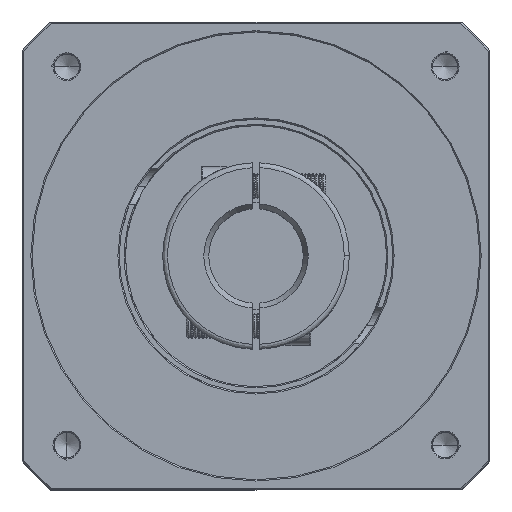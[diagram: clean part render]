
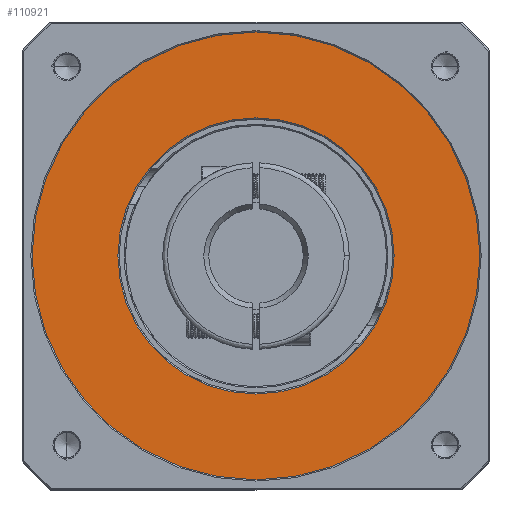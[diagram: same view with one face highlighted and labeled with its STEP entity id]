
A CAD part, top view. The second image highlights one B-rep face of the part: STEP entity #110921.
In plain terms, the highlighted planar face has unit normal (0, 0, 1).
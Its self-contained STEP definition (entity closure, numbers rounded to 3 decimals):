
#310 = CIRCLE ( 'NONE', #54168, 55.5 ) ;
#1103 = CARTESIAN_POINT ( 'NONE',  ( 49.632, 86.389, -7.655 ) ) ;
#2129 = DIRECTION ( 'NONE',  ( 0., 0., 1. ) ) ;
#10803 = EDGE_CURVE ( 'NONE', #55040, #21802, #19349, .T. ) ;
#11178 = DIRECTION ( 'NONE',  ( 0., 0., -1. ) ) ;
#11535 = DIRECTION ( 'NONE',  ( 1., 0., 0. ) ) ;
#17933 = ORIENTED_EDGE ( 'NONE', *, *, #134704, .T. ) ;
#19349 = CIRCLE ( 'NONE', #88913, 90. ) ;
#21802 = VERTEX_POINT ( 'NONE', #1103 ) ;
#21963 = ORIENTED_EDGE ( 'NONE', *, *, #10803, .T. ) ;
#25351 = DIRECTION ( 'NONE',  ( 0., 0., -1. ) ) ;
#25706 = DIRECTION ( 'NONE',  ( 1., 0., 0. ) ) ;
#28051 = VERTEX_POINT ( 'NONE', #36729 ) ;
#30724 = CARTESIAN_POINT ( 'NONE',  ( -40.368, 86.389, -7.655 ) ) ;
#31558 = ORIENTED_EDGE ( 'NONE', *, *, #78240, .T. ) ;
#36729 = CARTESIAN_POINT ( 'NONE',  ( 15.132, 86.389, -7.655 ) ) ;
#37270 = AXIS2_PLACEMENT_3D ( 'NONE', #136455, #126587, #72224 ) ;
#43012 = AXIS2_PLACEMENT_3D ( 'NONE', #90562, #122529, #47973 ) ;
#47973 = DIRECTION ( 'NONE',  ( 1., 0., 0. ) ) ;
#54168 = AXIS2_PLACEMENT_3D ( 'NONE', #119870, #11178, #25706 ) ;
#54296 = FACE_BOUND ( 'NONE', #128419, .T. ) ;
#55040 = VERTEX_POINT ( 'NONE', #65059 ) ;
#59446 = EDGE_CURVE ( 'NONE', #21802, #55040, #91395, .T. ) ;
#65059 = CARTESIAN_POINT ( 'NONE',  ( -130.368, 86.389, -7.655 ) ) ;
#67771 = DIRECTION ( 'NONE',  ( 1., 0., 0. ) ) ;
#68047 = VERTEX_POINT ( 'NONE', #112137 ) ;
#69444 = FACE_OUTER_BOUND ( 'NONE', #111911, .T. ) ;
#72224 = DIRECTION ( 'NONE',  ( 1., 0., 0. ) ) ;
#78240 = EDGE_CURVE ( 'NONE', #68047, #28051, #125361, .T. ) ;
#78554 = AXIS2_PLACEMENT_3D ( 'NONE', #79001, #25351, #67771 ) ;
#79001 = CARTESIAN_POINT ( 'NONE',  ( -40.368, 86.389, -7.655 ) ) ;
#88913 = AXIS2_PLACEMENT_3D ( 'NONE', #30724, #2129, #11535 ) ;
#90562 = CARTESIAN_POINT ( 'NONE',  ( -40.368, 86.389, -7.655 ) ) ;
#91395 = CIRCLE ( 'NONE', #37270, 90. ) ;
#101858 = PLANE ( 'NONE',  #43012 ) ;
#110921 = ADVANCED_FACE ( 'NONE', ( #54296, #69444 ), #101858, .T. ) ;
#111911 = EDGE_LOOP ( 'NONE', ( #118883, #21963 ) ) ;
#112137 = CARTESIAN_POINT ( 'NONE',  ( -95.868, 86.389, -7.655 ) ) ;
#118883 = ORIENTED_EDGE ( 'NONE', *, *, #59446, .T. ) ;
#119870 = CARTESIAN_POINT ( 'NONE',  ( -40.368, 86.389, -7.655 ) ) ;
#122529 = DIRECTION ( 'NONE',  ( 0., 0., 1. ) ) ;
#125361 = CIRCLE ( 'NONE', #78554, 55.5 ) ;
#126587 = DIRECTION ( 'NONE',  ( 0., 0., 1. ) ) ;
#128419 = EDGE_LOOP ( 'NONE', ( #17933, #31558 ) ) ;
#134704 = EDGE_CURVE ( 'NONE', #28051, #68047, #310, .T. ) ;
#136455 = CARTESIAN_POINT ( 'NONE',  ( -40.368, 86.389, -7.655 ) ) ;
